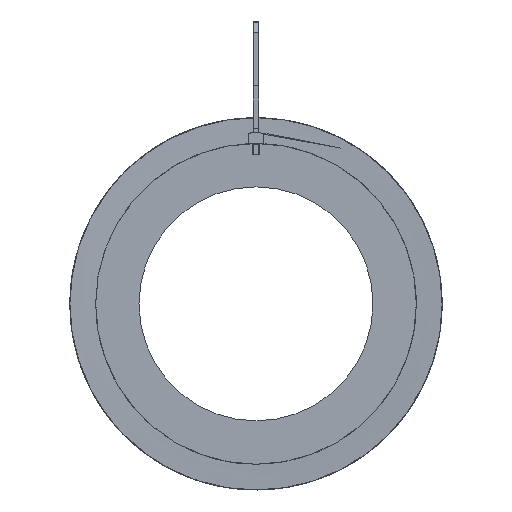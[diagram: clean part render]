
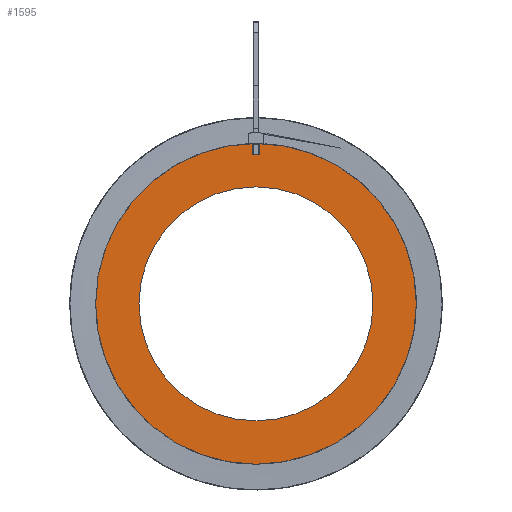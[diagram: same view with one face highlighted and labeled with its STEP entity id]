
A CAD part, front view. The second image highlights one B-rep face of the part: STEP entity #1595.
In plain terms, the highlighted planar face has unit normal (0, -1, 0).
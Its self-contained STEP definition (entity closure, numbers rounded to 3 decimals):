
#30=FACE_BOUND($,#305,.T.);
#31=FACE_BOUND($,#306,.T.);
#43=CIRCLE($,#1613,30.);
#63=CIRCLE($,#1645,30.15);
#69=CIRCLE($,#1707,22.);
#143=PLANE($,#1706);
#214=FACE_OUTER_BOUND($,#304,.T.);
#304=EDGE_LOOP($,(#1429));
#305=EDGE_LOOP($,(#1430,#1431,#1432,#1433));
#306=EDGE_LOOP($,(#1434));
#475=LINE($,#15004,#646);
#478=LINE($,#15010,#649);
#482=LINE($,#15016,#653);
#646=VECTOR($,#2082,1.991);
#649=VECTOR($,#2087,1.5);
#653=VECTOR($,#2093,1.991);
#689=VERTEX_POINT($,#14660);
#690=VERTEX_POINT($,#14662);
#722=VERTEX_POINT($,#14750);
#796=VERTEX_POINT($,#15003);
#798=VERTEX_POINT($,#15009);
#800=VERTEX_POINT($,#15018);
#835=EDGE_CURVE($,#690,#689,#43,.T.);
#879=EDGE_CURVE($,#722,#722,#63,.T.);
#1005=EDGE_CURVE($,#796,#690,#475,.T.);
#1008=EDGE_CURVE($,#798,#796,#478,.T.);
#1012=EDGE_CURVE($,#689,#798,#482,.T.);
#1013=EDGE_CURVE($,#800,#800,#69,.T.);
#1429=ORIENTED_EDGE($,*,*,#879,.T.);
#1430=ORIENTED_EDGE($,*,*,#1012,.T.);
#1431=ORIENTED_EDGE($,*,*,#1008,.T.);
#1432=ORIENTED_EDGE($,*,*,#1005,.T.);
#1433=ORIENTED_EDGE($,*,*,#835,.T.);
#1434=ORIENTED_EDGE($,*,*,#1013,.T.);
#1595=ADVANCED_FACE($,(#214,#30,#31),#143,.F.);
#1613=AXIS2_PLACEMENT_3D($,#14663,#1756,#1757);
#1645=AXIS2_PLACEMENT_3D($,#14751,#1844,#1845);
#1706=AXIS2_PLACEMENT_3D($,#15017,#2094,#2095);
#1707=AXIS2_PLACEMENT_3D($,#15019,#2096,#2097);
#1756=DIRECTION('center_axis',(0.,1.,0.));
#1757=DIRECTION('ref_axis',(1.,0.,0.));
#1844=DIRECTION('center_axis',(0.,-1.,0.));
#1845=DIRECTION('ref_axis',(1.,0.,0.));
#2082=DIRECTION($,(0.,0.,1.));
#2087=DIRECTION($,(-1.,0.,0.));
#2093=DIRECTION($,(0.,0.,-1.));
#2094=DIRECTION('center_axis',(0.,1.,0.));
#2095=DIRECTION('ref_axis',(0.,0.,1.));
#2096=DIRECTION('center_axis',(0.,1.,0.));
#2097=DIRECTION('ref_axis',(1.,0.,0.));
#14660=CARTESIAN_POINT('',(0.75,-250.,29.991));
#14662=CARTESIAN_POINT('',(-0.75,-250.,29.991));
#14663=CARTESIAN_POINT('Origin',(0.,-250.,0.));
#14750=CARTESIAN_POINT('',(-30.15,-250.,0.));
#14751=CARTESIAN_POINT('Origin',(0.,-250.,0.));
#15003=CARTESIAN_POINT('',(-0.75,-250.,28.));
#15004=CARTESIAN_POINT($,(-0.75,-250.,15.35));
#15009=CARTESIAN_POINT('',(0.75,-250.,28.));
#15010=CARTESIAN_POINT($,(-0.375,-250.,28.));
#15016=CARTESIAN_POINT($,(0.75,-250.,14.));
#15017=CARTESIAN_POINT('Origin',(0.,-250.,0.));
#15018=CARTESIAN_POINT('',(-22.,-250.,0.));
#15019=CARTESIAN_POINT('Origin',(0.,-250.,0.));
